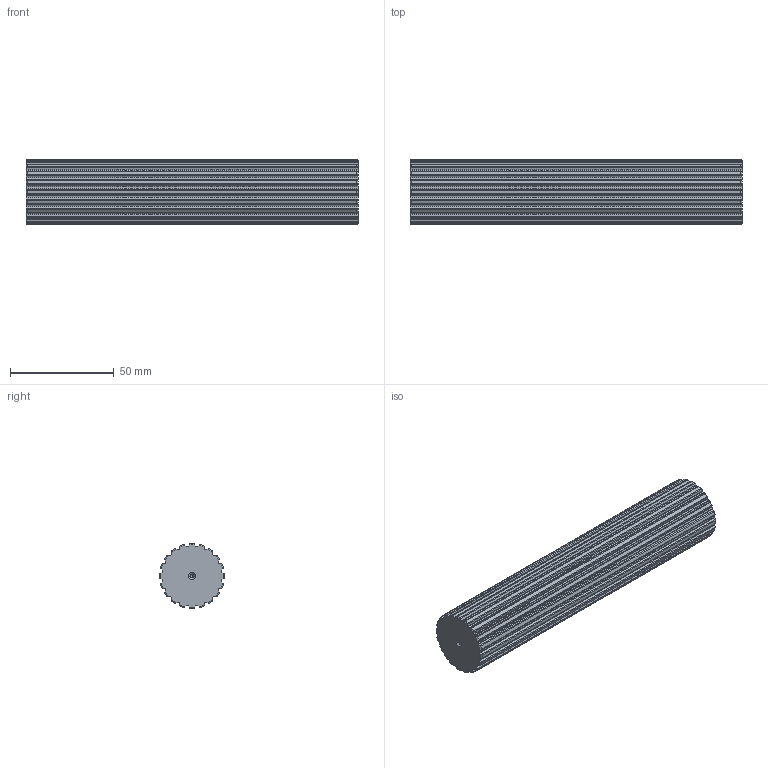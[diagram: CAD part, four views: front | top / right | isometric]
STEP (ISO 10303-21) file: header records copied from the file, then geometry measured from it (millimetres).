
FILE_DESCRIPTION(('STEP AP203'),'1');
FILE_NAME('bart_20.stp','2022-04-12T13:58:55',('TraceParts'),('TraceParts S.A.'),'Spatial InterOp 3D',' ',' ');
FILE_SCHEMA(('CONFIG_CONTROL_DESIGN'));
Length unit declared in the file: millimetre
Products named in the file (1): 1
Bounding box: 160 x 31.33 x 31.33 mm (x, y, z)
Volume: 114962.7 mm3; surface area: 20980.9 mm2
Topology: 1 solids, 1 shells, 218 faces, 640 edges, 422 vertices
Faces by surface type: cylinder 124, cone 52, plane 42
Entity records: 7636 total; most frequent: CARTESIAN_POINT 1997, ORIENTED_EDGE 1272, DIRECTION 1134, EDGE_CURVE 636, AXIS2_PLACEMENT_3D 439, VERTEX_POINT 422, LINE 256, VECTOR 256
